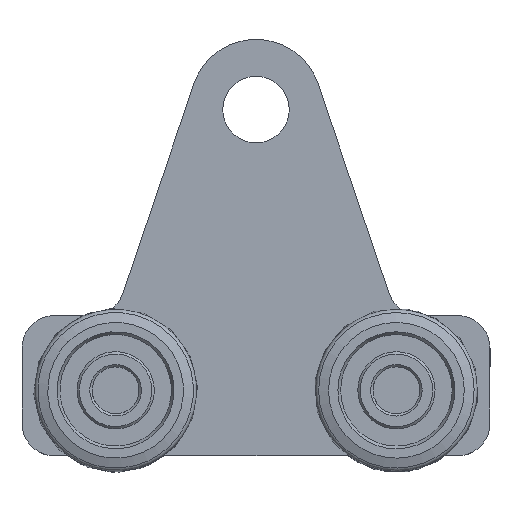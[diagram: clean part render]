
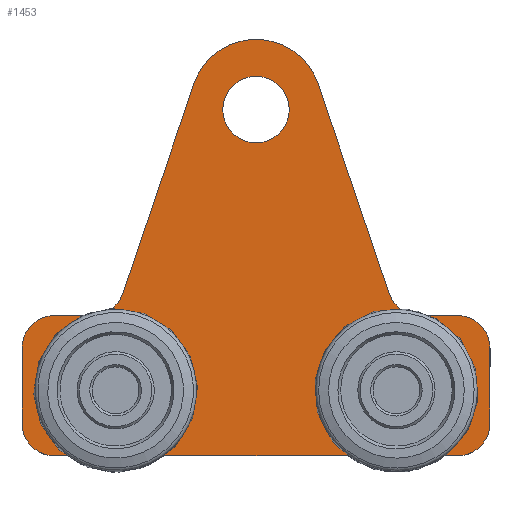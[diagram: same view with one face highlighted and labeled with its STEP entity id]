
A CAD part, top view. The second image highlights one B-rep face of the part: STEP entity #1453.
In plain terms, the highlighted planar face has unit normal (0, 0, 1).
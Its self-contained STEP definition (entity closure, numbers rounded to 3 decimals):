
#109=LINE('',#2135,#219);
#114=LINE('',#2149,#224);
#119=LINE('',#2167,#229);
#123=LINE('',#2178,#233);
#127=LINE('',#2191,#237);
#131=LINE('',#2203,#241);
#135=LINE('',#2215,#245);
#139=LINE('',#2227,#249);
#143=LINE('',#2239,#253);
#147=LINE('',#2251,#257);
#151=LINE('',#2262,#261);
#219=VECTOR('',#1696,2.718);
#224=VECTOR('',#1709,2.718);
#229=VECTOR('',#1728,2.718);
#233=VECTOR('',#1740,2.718);
#237=VECTOR('',#1752,7.924);
#241=VECTOR('',#1764,47.258);
#245=VECTOR('',#1776,47.258);
#249=VECTOR('',#1788,7.924);
#253=VECTOR('',#1800,16.);
#257=VECTOR('',#1812,86.);
#261=VECTOR('',#1824,16.);
#341=PLANE('',#1570);
#381=FACE_BOUND('',#523,.T.);
#382=FACE_BOUND('',#524,.T.);
#383=FACE_BOUND('',#525,.T.);
#430=FACE_OUTER_BOUND('',#522,.T.);
#522=EDGE_LOOP('',(#1129,#1130,#1131,#1132,#1133,#1134,#1135,#1136,#1137,
#1138,#1139,#1140,#1141,#1142));
#523=EDGE_LOOP('',(#1143));
#524=EDGE_LOOP('',(#1144,#1145,#1146,#1147));
#525=EDGE_LOOP('',(#1148,#1149,#1150,#1151));
#612=CIRCLE('',#1524,7.1);
#613=CIRCLE('',#1527,7.6);
#615=CIRCLE('',#1531,5.15);
#617=CIRCLE('',#1534,5.15);
#619=CIRCLE('',#1538,7.6);
#621=CIRCLE('',#1542,7.);
#623=CIRCLE('',#1546,7.);
#625=CIRCLE('',#1550,14.);
#627=CIRCLE('',#1554,7.);
#629=CIRCLE('',#1558,7.);
#631=CIRCLE('',#1562,7.);
#633=CIRCLE('',#1566,7.);
#682=VERTEX_POINT('',#2130);
#683=VERTEX_POINT('',#2133);
#684=VERTEX_POINT('',#2134);
#687=VERTEX_POINT('',#2142);
#689=VERTEX_POINT('',#2148);
#691=VERTEX_POINT('',#2157);
#692=VERTEX_POINT('',#2158);
#695=VERTEX_POINT('',#2166);
#697=VERTEX_POINT('',#2172);
#699=VERTEX_POINT('',#2181);
#700=VERTEX_POINT('',#2182);
#703=VERTEX_POINT('',#2190);
#705=VERTEX_POINT('',#2196);
#707=VERTEX_POINT('',#2202);
#709=VERTEX_POINT('',#2208);
#711=VERTEX_POINT('',#2214);
#713=VERTEX_POINT('',#2220);
#715=VERTEX_POINT('',#2226);
#717=VERTEX_POINT('',#2232);
#719=VERTEX_POINT('',#2238);
#721=VERTEX_POINT('',#2244);
#723=VERTEX_POINT('',#2250);
#725=VERTEX_POINT('',#2256);
#820=EDGE_CURVE('',#682,#682,#612,.T.);
#821=EDGE_CURVE('',#683,#684,#109,.T.);
#825=EDGE_CURVE('',#684,#687,#613,.T.);
#828=EDGE_CURVE('',#687,#689,#114,.T.);
#831=EDGE_CURVE('',#689,#683,#615,.T.);
#833=EDGE_CURVE('',#691,#692,#617,.T.);
#837=EDGE_CURVE('',#692,#695,#119,.T.);
#840=EDGE_CURVE('',#695,#697,#619,.T.);
#843=EDGE_CURVE('',#697,#691,#123,.T.);
#845=EDGE_CURVE('',#699,#700,#621,.T.);
#849=EDGE_CURVE('',#700,#703,#127,.T.);
#852=EDGE_CURVE('',#703,#705,#623,.T.);
#855=EDGE_CURVE('',#705,#707,#131,.T.);
#858=EDGE_CURVE('',#707,#709,#625,.T.);
#861=EDGE_CURVE('',#709,#711,#135,.T.);
#864=EDGE_CURVE('',#711,#713,#627,.T.);
#867=EDGE_CURVE('',#713,#715,#139,.T.);
#870=EDGE_CURVE('',#715,#717,#629,.T.);
#873=EDGE_CURVE('',#717,#719,#143,.T.);
#876=EDGE_CURVE('',#719,#721,#631,.T.);
#879=EDGE_CURVE('',#721,#723,#147,.T.);
#882=EDGE_CURVE('',#723,#725,#633,.T.);
#885=EDGE_CURVE('',#725,#699,#151,.T.);
#1129=ORIENTED_EDGE('',*,*,#845,.F.);
#1130=ORIENTED_EDGE('',*,*,#885,.F.);
#1131=ORIENTED_EDGE('',*,*,#882,.F.);
#1132=ORIENTED_EDGE('',*,*,#879,.F.);
#1133=ORIENTED_EDGE('',*,*,#876,.F.);
#1134=ORIENTED_EDGE('',*,*,#873,.F.);
#1135=ORIENTED_EDGE('',*,*,#870,.F.);
#1136=ORIENTED_EDGE('',*,*,#867,.F.);
#1137=ORIENTED_EDGE('',*,*,#864,.F.);
#1138=ORIENTED_EDGE('',*,*,#861,.F.);
#1139=ORIENTED_EDGE('',*,*,#858,.F.);
#1140=ORIENTED_EDGE('',*,*,#855,.F.);
#1141=ORIENTED_EDGE('',*,*,#852,.F.);
#1142=ORIENTED_EDGE('',*,*,#849,.F.);
#1143=ORIENTED_EDGE('',*,*,#820,.T.);
#1144=ORIENTED_EDGE('',*,*,#821,.T.);
#1145=ORIENTED_EDGE('',*,*,#825,.T.);
#1146=ORIENTED_EDGE('',*,*,#828,.T.);
#1147=ORIENTED_EDGE('',*,*,#831,.T.);
#1148=ORIENTED_EDGE('',*,*,#833,.T.);
#1149=ORIENTED_EDGE('',*,*,#837,.T.);
#1150=ORIENTED_EDGE('',*,*,#840,.T.);
#1151=ORIENTED_EDGE('',*,*,#843,.T.);
#1453=ADVANCED_FACE('',(#430,#381,#382,#383),#341,.T.);
#1524=AXIS2_PLACEMENT_3D('',#2131,#1692,#1693);
#1527=AXIS2_PLACEMENT_3D('',#2143,#1702,#1703);
#1531=AXIS2_PLACEMENT_3D('',#2154,#1714,#1715);
#1534=AXIS2_PLACEMENT_3D('',#2159,#1720,#1721);
#1538=AXIS2_PLACEMENT_3D('',#2173,#1733,#1734);
#1542=AXIS2_PLACEMENT_3D('',#2183,#1744,#1745);
#1546=AXIS2_PLACEMENT_3D('',#2197,#1757,#1758);
#1550=AXIS2_PLACEMENT_3D('',#2209,#1769,#1770);
#1554=AXIS2_PLACEMENT_3D('',#2221,#1781,#1782);
#1558=AXIS2_PLACEMENT_3D('',#2233,#1793,#1794);
#1562=AXIS2_PLACEMENT_3D('',#2245,#1805,#1806);
#1566=AXIS2_PLACEMENT_3D('',#2257,#1817,#1818);
#1570=AXIS2_PLACEMENT_3D('',#2265,#1828,#1829);
#1692=DIRECTION('center_axis',(0.,0.,-1.));
#1693=DIRECTION('ref_axis',(1.,0.,0.));
#1696=DIRECTION('',(-0.866,0.5,0.));
#1702=DIRECTION('center_axis',(0.,0.,-1.));
#1703=DIRECTION('ref_axis',(-0.866,-0.5,0.));
#1709=DIRECTION('',(-0.866,-0.5,0.));
#1714=DIRECTION('center_axis',(0.,0.,-1.));
#1715=DIRECTION('ref_axis',(0.821,-0.571,0.));
#1720=DIRECTION('center_axis',(0.,0.,-1.));
#1721=DIRECTION('ref_axis',(-0.821,0.571,0.));
#1728=DIRECTION('',(-0.866,0.5,0.));
#1733=DIRECTION('center_axis',(0.,0.,-1.));
#1734=DIRECTION('ref_axis',(0.866,0.5,0.));
#1740=DIRECTION('',(-0.866,-0.5,0.));
#1744=DIRECTION('center_axis',(0.,0.,-1.));
#1745=DIRECTION('ref_axis',(0.,1.,0.));
#1752=DIRECTION('',(1.,0.,0.));
#1757=DIRECTION('center_axis',(0.,0.,1.));
#1758=DIRECTION('ref_axis',(0.,1.,0.));
#1764=DIRECTION('',(0.321,0.947,0.));
#1769=DIRECTION('center_axis',(0.,0.,-1.));
#1770=DIRECTION('ref_axis',(0.947,0.321,0.));
#1776=DIRECTION('',(0.321,-0.947,0.));
#1781=DIRECTION('center_axis',(0.,0.,1.));
#1782=DIRECTION('ref_axis',(0.947,0.321,0.));
#1788=DIRECTION('',(1.,0.,0.));
#1793=DIRECTION('center_axis',(0.,0.,-1.));
#1794=DIRECTION('ref_axis',(1.,0.,0.));
#1800=DIRECTION('',(0.,-1.,0.));
#1805=DIRECTION('center_axis',(0.,0.,-1.));
#1806=DIRECTION('ref_axis',(0.,-1.,0.));
#1812=DIRECTION('',(-1.,0.,0.));
#1817=DIRECTION('center_axis',(0.,0.,-1.));
#1818=DIRECTION('ref_axis',(-1.,0.,0.));
#1824=DIRECTION('',(0.,1.,0.));
#1828=DIRECTION('center_axis',(0.,0.,1.));
#1829=DIRECTION('ref_axis',(1.,0.,0.));
#2130=CARTESIAN_POINT('',(7.1,60.,6.));
#2131=CARTESIAN_POINT('Origin',(0.,60.,6.));
#2133=CARTESIAN_POINT('',(-34.228,2.941,6.));
#2134=CARTESIAN_POINT('',(-36.582,4.3,6.));
#2135=CARTESIAN_POINT('',(-24.747,-2.533,6.));
#2142=CARTESIAN_POINT('',(-23.418,4.3,6.));
#2143=CARTESIAN_POINT('Origin',(-30.,0.5,6.));
#2148=CARTESIAN_POINT('',(-25.772,2.941,6.));
#2149=CARTESIAN_POINT('',(-11.576,11.137,6.));
#2154=CARTESIAN_POINT('Origin',(-30.,0.,6.));
#2157=CARTESIAN_POINT('',(34.228,2.941,6.));
#2158=CARTESIAN_POINT('',(25.772,2.941,6.));
#2159=CARTESIAN_POINT('Origin',(30.,0.,6.));
#2166=CARTESIAN_POINT('',(23.418,4.3,6.));
#2167=CARTESIAN_POINT('',(12.753,10.458,6.));
#2172=CARTESIAN_POINT('',(36.582,4.3,6.));
#2173=CARTESIAN_POINT('Origin',(30.,0.5,6.));
#2178=CARTESIAN_POINT('',(25.924,-1.853,6.));
#2181=CARTESIAN_POINT('',(-50.,9.,6.));
#2182=CARTESIAN_POINT('',(-43.,16.,6.));
#2183=CARTESIAN_POINT('Origin',(-43.,9.,6.));
#2190=CARTESIAN_POINT('',(-35.076,16.,6.));
#2191=CARTESIAN_POINT('',(-35.076,16.,6.));
#2196=CARTESIAN_POINT('',(-28.448,20.75,6.));
#2197=CARTESIAN_POINT('Origin',(-35.076,23.,6.));
#2202=CARTESIAN_POINT('',(-13.257,65.5,6.));
#2203=CARTESIAN_POINT('',(-13.257,65.5,6.));
#2208=CARTESIAN_POINT('',(13.257,65.5,6.));
#2209=CARTESIAN_POINT('Origin',(0.,61.,6.));
#2214=CARTESIAN_POINT('',(28.448,20.75,6.));
#2215=CARTESIAN_POINT('',(28.448,20.75,6.));
#2220=CARTESIAN_POINT('',(35.076,16.,6.));
#2221=CARTESIAN_POINT('Origin',(35.076,23.,6.));
#2226=CARTESIAN_POINT('',(43.,16.,6.));
#2227=CARTESIAN_POINT('',(43.,16.,6.));
#2232=CARTESIAN_POINT('',(50.,9.,6.));
#2233=CARTESIAN_POINT('Origin',(43.,9.,6.));
#2238=CARTESIAN_POINT('',(50.,-7.,6.));
#2239=CARTESIAN_POINT('',(50.,-7.,6.));
#2244=CARTESIAN_POINT('',(43.,-14.,6.));
#2245=CARTESIAN_POINT('Origin',(43.,-7.,6.));
#2250=CARTESIAN_POINT('',(-43.,-14.,6.));
#2251=CARTESIAN_POINT('',(-43.,-14.,6.));
#2256=CARTESIAN_POINT('',(-50.,-7.,6.));
#2257=CARTESIAN_POINT('Origin',(-43.,-7.,6.));
#2262=CARTESIAN_POINT('',(-50.,9.,6.));
#2265=CARTESIAN_POINT('Origin',(0.,18.437,6.));
